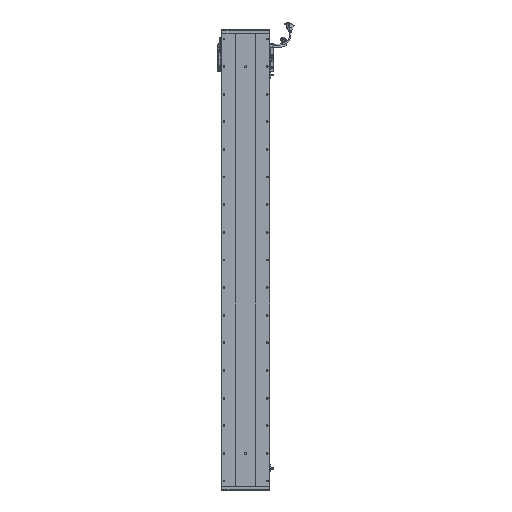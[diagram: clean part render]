
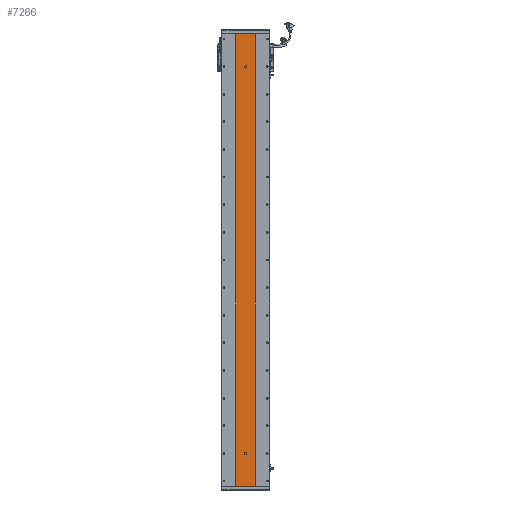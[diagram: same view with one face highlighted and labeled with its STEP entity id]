
A CAD part, front view. The second image highlights one B-rep face of the part: STEP entity #7266.
In plain terms, the highlighted planar face has unit normal (0, -1, 0).
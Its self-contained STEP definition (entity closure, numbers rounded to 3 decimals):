
#3330 = AXIS2_PLACEMENT_3D ( 'NONE', #97141, #26100, #42005 ) ;
#3945 = AXIS2_PLACEMENT_3D ( 'NONE', #96362, #89067, #80710 ) ;
#6716 = CARTESIAN_POINT ( 'NONE',  ( 3280.529, 1415.701, 120. ) ) ;
#7266 = ADVANCED_FACE ( 'NONE', ( #23584, #79303, #42127 ), #65545, .F. ) ;
#7322 = CARTESIAN_POINT ( 'NONE',  ( 3277.529, 1415.701, 120. ) ) ;
#8030 = VECTOR ( 'NONE', #9923, 1000. ) ;
#9328 = DIRECTION ( 'NONE',  ( 0., -1., 0. ) ) ;
#9923 = DIRECTION ( 'NONE',  ( 1., 0., 0. ) ) ;
#10486 = LINE ( 'NONE', #89529, #8030 ) ;
#11064 = EDGE_LOOP ( 'NONE', ( #16079, #31305, #57876, #39556, #88161 ) ) ;
#12788 = VERTEX_POINT ( 'NONE', #77193 ) ;
#13480 = EDGE_LOOP ( 'NONE', ( #37869, #68698 ) ) ;
#13751 = VERTEX_POINT ( 'NONE', #7322 ) ;
#14187 = CIRCLE ( 'NONE', #71621, 3. ) ;
#14338 = CARTESIAN_POINT ( 'NONE',  ( 3283.529, 1415.701, 120. ) ) ;
#14806 = CARTESIAN_POINT ( 'NONE',  ( 3244.748, 1415.701, 0. ) ) ;
#15068 = CARTESIAN_POINT ( 'NONE',  ( 3316.311, 1415.701, 1637. ) ) ;
#16061 = EDGE_CURVE ( 'NONE', #25715, #95747, #39247, .T. ) ;
#16079 = ORIENTED_EDGE ( 'NONE', *, *, #71157, .F. ) ;
#17842 = LINE ( 'NONE', #14338, #66087 ) ;
#18229 = DIRECTION ( 'NONE',  ( 0., 0., -1. ) ) ;
#19691 = EDGE_CURVE ( 'NONE', #77114, #13751, #14187, .T. ) ;
#21638 = LINE ( 'NONE', #86622, #56316 ) ;
#21937 = VERTEX_POINT ( 'NONE', #63540 ) ;
#23543 = DIRECTION ( 'NONE',  ( 0., -1., 0. ) ) ;
#23584 = FACE_BOUND ( 'NONE', #11064, .T. ) ;
#24360 = CARTESIAN_POINT ( 'NONE',  ( 3316.311, 1415.701, 0. ) ) ;
#25715 = VERTEX_POINT ( 'NONE', #88286 ) ;
#26100 = DIRECTION ( 'NONE',  ( 0., 1., 0. ) ) ;
#28989 = EDGE_CURVE ( 'NONE', #95747, #25715, #32140, .T. ) ;
#29581 = CARTESIAN_POINT ( 'NONE',  ( 3280.529, 1415.701, 117. ) ) ;
#31305 = ORIENTED_EDGE ( 'NONE', *, *, #88515, .F. ) ;
#32102 = EDGE_CURVE ( 'NONE', #21937, #69361, #21638, .T. ) ;
#32140 = CIRCLE ( 'NONE', #55711, 3. ) ;
#34643 = CIRCLE ( 'NONE', #78249, 3. ) ;
#36851 = DIRECTION ( 'NONE',  ( 0., -1., 0. ) ) ;
#37869 = ORIENTED_EDGE ( 'NONE', *, *, #28989, .F. ) ;
#39247 = CIRCLE ( 'NONE', #3945, 3. ) ;
#39384 = ORIENTED_EDGE ( 'NONE', *, *, #62396, .T. ) ;
#39556 = ORIENTED_EDGE ( 'NONE', *, *, #78956, .F. ) ;
#42005 = DIRECTION ( 'NONE',  ( 0., 0., 1. ) ) ;
#42127 = FACE_OUTER_BOUND ( 'NONE', #59224, .T. ) ;
#44177 = DIRECTION ( 'NONE',  ( 0., 0., -1. ) ) ;
#53507 = DIRECTION ( 'NONE',  ( 0., 0., -1. ) ) ;
#54093 = CARTESIAN_POINT ( 'NONE',  ( 3283.529, 1415.701, 120. ) ) ;
#54282 = CARTESIAN_POINT ( 'NONE',  ( 3280.529, 1415.701, 1515.5 ) ) ;
#55007 = LINE ( 'NONE', #15068, #61120 ) ;
#55711 = AXIS2_PLACEMENT_3D ( 'NONE', #95619, #23543, #78921 ) ;
#56316 = VECTOR ( 'NONE', #62336, 1000. ) ;
#56492 = EDGE_CURVE ( 'NONE', #65831, #96382, #55007, .T. ) ;
#57876 = ORIENTED_EDGE ( 'NONE', *, *, #19691, .F. ) ;
#59224 = EDGE_LOOP ( 'NONE', ( #39384, #61946, #87938, #73282 ) ) ;
#61120 = VECTOR ( 'NONE', #70403, 1000. ) ;
#61946 = ORIENTED_EDGE ( 'NONE', *, *, #56492, .F. ) ;
#62336 = DIRECTION ( 'NONE',  ( 0., 0., -1. ) ) ;
#62396 = EDGE_CURVE ( 'NONE', #69361, #96382, #10486, .T. ) ;
#63540 = CARTESIAN_POINT ( 'NONE',  ( 3244.748, 1415.701, 1637. ) ) ;
#63645 = CIRCLE ( 'NONE', #78077, 3. ) ;
#65545 = PLANE ( 'NONE',  #3330 ) ;
#65831 = VERTEX_POINT ( 'NONE', #88188 ) ;
#66087 = VECTOR ( 'NONE', #93334, 1000. ) ;
#67140 = DIRECTION ( 'NONE',  ( 1., 0., 0. ) ) ;
#68698 = ORIENTED_EDGE ( 'NONE', *, *, #16061, .F. ) ;
#69361 = VERTEX_POINT ( 'NONE', #14806 ) ;
#69384 = VERTEX_POINT ( 'NONE', #70824 ) ;
#69951 = DIRECTION ( 'NONE',  ( 0., 0., -1. ) ) ;
#70403 = DIRECTION ( 'NONE',  ( 0., 0., -1. ) ) ;
#70824 = CARTESIAN_POINT ( 'NONE',  ( 3280.529, 1415.701, 114. ) ) ;
#71157 = EDGE_CURVE ( 'NONE', #94565, #69384, #34643, .T. ) ;
#71621 = AXIS2_PLACEMENT_3D ( 'NONE', #6716, #85588, #69951 ) ;
#73282 = ORIENTED_EDGE ( 'NONE', *, *, #32102, .T. ) ;
#77114 = VERTEX_POINT ( 'NONE', #54093 ) ;
#77193 = CARTESIAN_POINT ( 'NONE',  ( 3283.529, 1415.701, 117. ) ) ;
#78077 = AXIS2_PLACEMENT_3D ( 'NONE', #29581, #36851, #53507 ) ;
#78249 = AXIS2_PLACEMENT_3D ( 'NONE', #97588, #9328, #18229 ) ;
#78921 = DIRECTION ( 'NONE',  ( 0., 0., -1. ) ) ;
#78956 = EDGE_CURVE ( 'NONE', #12788, #77114, #17842, .T. ) ;
#79303 = FACE_BOUND ( 'NONE', #13480, .T. ) ;
#79389 = EDGE_CURVE ( 'NONE', #21937, #65831, #96025, .T. ) ;
#79909 = EDGE_CURVE ( 'NONE', #69384, #12788, #63645, .T. ) ;
#80710 = DIRECTION ( 'NONE',  ( 0., 0., -1. ) ) ;
#85588 = DIRECTION ( 'NONE',  ( 0., -1., 0. ) ) ;
#86622 = CARTESIAN_POINT ( 'NONE',  ( 3244.748, 1415.701, 1637. ) ) ;
#87938 = ORIENTED_EDGE ( 'NONE', *, *, #79389, .F. ) ;
#88161 = ORIENTED_EDGE ( 'NONE', *, *, #79909, .F. ) ;
#88188 = CARTESIAN_POINT ( 'NONE',  ( 3316.311, 1415.701, 1637. ) ) ;
#88286 = CARTESIAN_POINT ( 'NONE',  ( 3280.529, 1415.701, 1521.5 ) ) ;
#88515 = EDGE_CURVE ( 'NONE', #13751, #94565, #93296, .T. ) ;
#88893 = CARTESIAN_POINT ( 'NONE',  ( 3277.529, 1415.701, 117. ) ) ;
#89067 = DIRECTION ( 'NONE',  ( 0., -1., 0. ) ) ;
#89529 = CARTESIAN_POINT ( 'NONE',  ( 3244.748, 1415.701, 0. ) ) ;
#91022 = VECTOR ( 'NONE', #67140, 1000. ) ;
#93296 = LINE ( 'NONE', #98278, #102064 ) ;
#93334 = DIRECTION ( 'NONE',  ( 0., 0., 1. ) ) ;
#94565 = VERTEX_POINT ( 'NONE', #88893 ) ;
#95619 = CARTESIAN_POINT ( 'NONE',  ( 3280.529, 1415.701, 1518.5 ) ) ;
#95747 = VERTEX_POINT ( 'NONE', #54282 ) ;
#96025 = LINE ( 'NONE', #99130, #91022 ) ;
#96362 = CARTESIAN_POINT ( 'NONE',  ( 3280.529, 1415.701, 1518.5 ) ) ;
#96382 = VERTEX_POINT ( 'NONE', #24360 ) ;
#97141 = CARTESIAN_POINT ( 'NONE',  ( 3244.748, 1415.701, 1637. ) ) ;
#97588 = CARTESIAN_POINT ( 'NONE',  ( 3280.529, 1415.701, 117. ) ) ;
#98278 = CARTESIAN_POINT ( 'NONE',  ( 3277.529, 1415.701, 120. ) ) ;
#99130 = CARTESIAN_POINT ( 'NONE',  ( 3244.748, 1415.701, 1637. ) ) ;
#102064 = VECTOR ( 'NONE', #44177, 1000. ) ;
